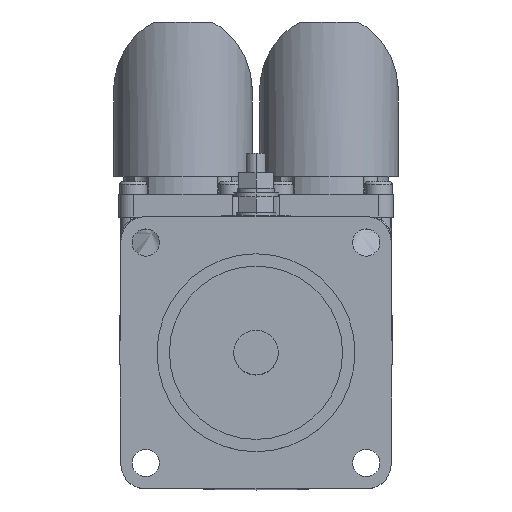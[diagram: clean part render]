
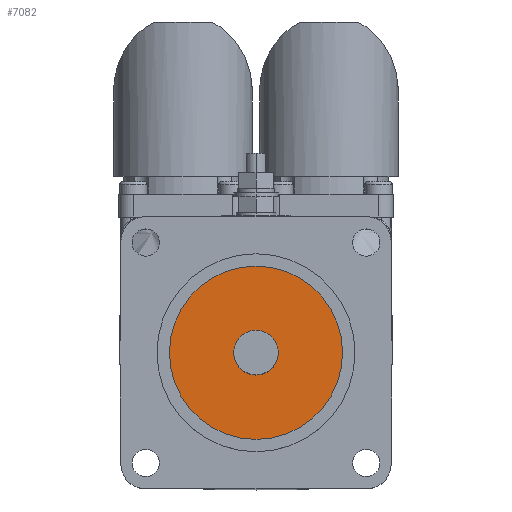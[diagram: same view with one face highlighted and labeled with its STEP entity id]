
A CAD part, top view. The second image highlights one B-rep face of the part: STEP entity #7082.
In plain terms, the highlighted planar face has unit normal (0, 0, 1).
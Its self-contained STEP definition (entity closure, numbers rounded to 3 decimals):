
#2484 = EDGE_LOOP ( 'NONE', ( #3475, #3476 ) ) ;
#2488 = EDGE_LOOP ( 'NONE', ( #3477, #3478 ) ) ;
#3475 = ORIENTED_EDGE ( 'NONE', *, *, #4245, .T. ) ;
#3476 = ORIENTED_EDGE ( 'NONE', *, *, #4270, .T. ) ;
#3477 = ORIENTED_EDGE ( 'NONE', *, *, #4244, .F. ) ;
#3478 = ORIENTED_EDGE ( 'NONE', *, *, #4279, .F. ) ;
#4244 = EDGE_CURVE ( 'NONE', #13419, #13418, #8324, .T. ) ;
#4245 = EDGE_CURVE ( 'NONE', #13425, #13424, #8326, .T. ) ;
#4270 = EDGE_CURVE ( 'NONE', #13424, #13425, #8365, .T. ) ;
#4279 = EDGE_CURVE ( 'NONE', #13418, #13419, #8377, .T. ) ;
#5583 = AXIS2_PLACEMENT_3D ( 'NONE', #7950, #7951, #7952 ) ;
#5584 = AXIS2_PLACEMENT_3D ( 'NONE', #7953, #7954, #7955 ) ;
#5597 = AXIS2_PLACEMENT_3D ( 'NONE', #8011, #8012, #8013 ) ;
#5602 = AXIS2_PLACEMENT_3D ( 'NONE', #8031, #8038, #8039 ) ;
#5826 = AXIS2_PLACEMENT_3D ( 'NONE', #10380, #10382, #10383 ) ;
#7082 = ADVANCED_FACE ( 'NONE', ( #8936, #8939 ), #10381, .T. ) ;
#7950 = CARTESIAN_POINT ( 'NONE',  ( 0., 0., 84.5 ) ) ;
#7951 = DIRECTION ( 'NONE',  ( 0., 0., 1. ) ) ;
#7952 = DIRECTION ( 'NONE',  ( 1., 0., 0. ) ) ;
#7953 = CARTESIAN_POINT ( 'NONE',  ( 0., 0., 84.5 ) ) ;
#7954 = DIRECTION ( 'NONE',  ( 0., 0., 1. ) ) ;
#7955 = DIRECTION ( 'NONE',  ( 1., 0., 0. ) ) ;
#8011 = CARTESIAN_POINT ( 'NONE',  ( 0., 0., 84.5 ) ) ;
#8012 = DIRECTION ( 'NONE',  ( 0., 0., 1. ) ) ;
#8013 = DIRECTION ( 'NONE',  ( 1., 0., 0. ) ) ;
#8031 = CARTESIAN_POINT ( 'NONE',  ( 0., 0., 84.5 ) ) ;
#8038 = DIRECTION ( 'NONE',  ( 0., 0., 1. ) ) ;
#8039 = DIRECTION ( 'NONE',  ( 1., 0., 0. ) ) ;
#8324 = CIRCLE ( 'NONE', #5583, 4.5 ) ;
#8326 = CIRCLE ( 'NONE', #5584, 17.5 ) ;
#8365 = CIRCLE ( 'NONE', #5597, 17.5 ) ;
#8377 = CIRCLE ( 'NONE', #5602, 4.5 ) ;
#8936 = FACE_OUTER_BOUND ( 'NONE', #2484, .T. ) ;
#8939 = FACE_BOUND ( 'NONE', #2488, .T. ) ;
#10380 = CARTESIAN_POINT ( 'NONE',  ( 0., 0., 84.5 ) ) ;
#10381 = PLANE ( 'NONE',  #5826 ) ;
#10382 = DIRECTION ( 'NONE',  ( 0., 0., 1. ) ) ;
#10383 = DIRECTION ( 'NONE',  ( 1., 0., 0. ) ) ;
#11171 = CARTESIAN_POINT ( 'NONE',  ( 4.5, 0., 84.5 ) ) ;
#11172 = CARTESIAN_POINT ( 'NONE',  ( -4.5, 0., 84.5 ) ) ;
#11177 = CARTESIAN_POINT ( 'NONE',  ( -17.5, 0., 84.5 ) ) ;
#11178 = CARTESIAN_POINT ( 'NONE',  ( 17.5, 0., 84.5 ) ) ;
#13418 = VERTEX_POINT ( 'NONE', #11171 ) ;
#13419 = VERTEX_POINT ( 'NONE', #11172 ) ;
#13424 = VERTEX_POINT ( 'NONE', #11177 ) ;
#13425 = VERTEX_POINT ( 'NONE', #11178 ) ;
